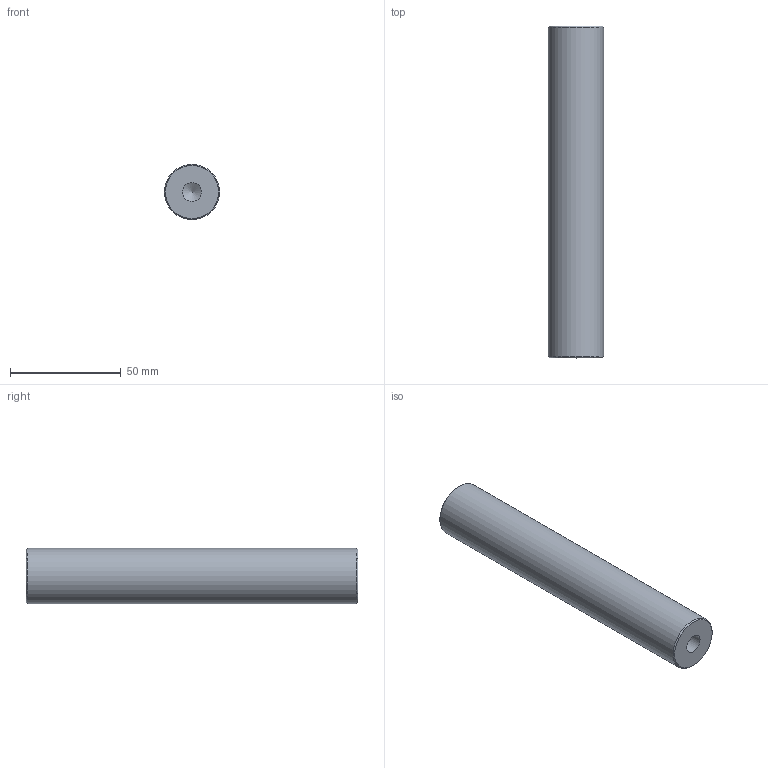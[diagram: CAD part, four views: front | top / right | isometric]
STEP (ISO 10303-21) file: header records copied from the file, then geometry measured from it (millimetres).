
FILE_DESCRIPTION(/* description */ (''),/* implementation_level */ '2;1');
FILE_NAME(/* name */ 'BM22-25D-150L.step',/* time_stamp */ '2023-10-24T14:15:06+09:00',/* author */ (''),/* organization */ (''),/* preprocessor_version */ 'ST-DEVELOPER v20',/* originating_system */ 'Autodesk Translation Framework v12.14.0.127',/* authorisation */ '');
FILE_SCHEMA (('AUTOMOTIVE_DESIGN { 1 0 10303 214 3 1 1 }'));
Length unit declared in the file: millimetre
Products named in the file (1): BM22-25D-150L
Bounding box: 25 x 150 x 25 mm (x, y, z)
Volume: 71801.4 mm3; surface area: 13538.6 mm2
Topology: 1 solids, 1 shells, 9 faces, 17 edges, 10 vertices
Faces by surface type: cone 4, cylinder 3, plane 2
Full cylindrical faces by diameter (mm): 8.526 x2, 25 x1
Entity records: 257 total; most frequent: DIRECTION 43, CARTESIAN_POINT 35, ORIENTED_EDGE 30, AXIS2_PLACEMENT_3D 18, EDGE_CURVE 15, EDGE_LOOP 11, VERTEX_POINT 10, FACE_OUTER_BOUND 9
